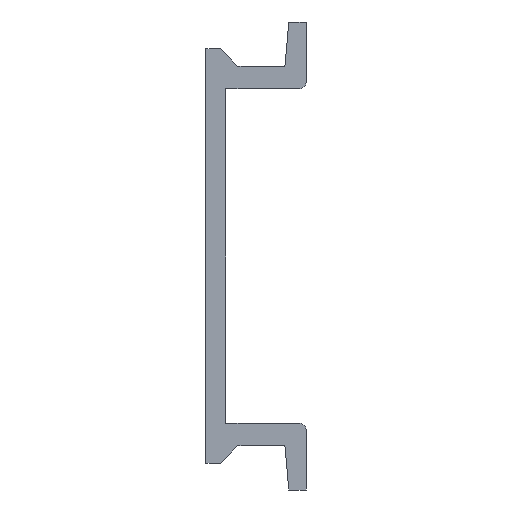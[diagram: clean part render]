
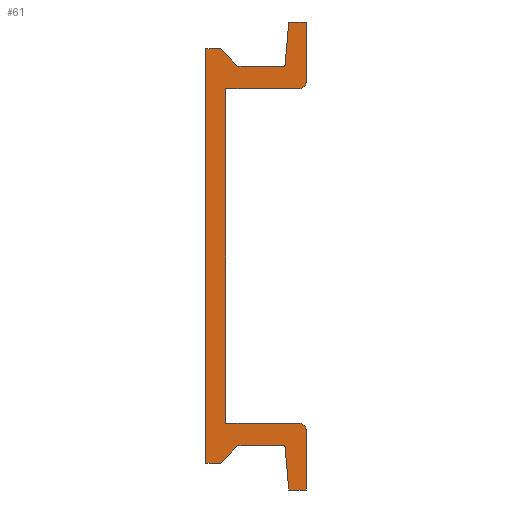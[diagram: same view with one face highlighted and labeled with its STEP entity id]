
A CAD part, left-side view. The second image highlights one B-rep face of the part: STEP entity #61.
In plain terms, the highlighted planar face has unit normal (-1, 0, 0).
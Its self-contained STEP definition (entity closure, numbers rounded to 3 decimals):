
#61=ADVANCED_FACE('',(#355),#354,.F.);
#354=PLANE('',#1040);
#355=FACE_OUTER_BOUND('',#1041,.T.);
#1037=CARTESIAN_POINT('',(0.,-8.25,21.));
#1038=DIRECTION('',(1.,0.,0.));
#1039=DIRECTION('',(0.,0.,-1.));
#1040=AXIS2_PLACEMENT_3D('',#1037,#1038,#1039);
#1041=EDGE_LOOP('',(#1522,#1523,#1524,#1525,#1526,#1527,#1528,#1529,#1530,#1531,#1532,#1533,#1534,#1535,#1536,#1537,#1538,#1539));
#1522=ORIENTED_EDGE('',*,*,#1763,.T.);
#1523=ORIENTED_EDGE('',*,*,#1767,.T.);
#1524=ORIENTED_EDGE('',*,*,#1923,.T.);
#1525=ORIENTED_EDGE('',*,*,#1920,.T.);
#1526=ORIENTED_EDGE('',*,*,#1917,.T.);
#1527=ORIENTED_EDGE('',*,*,#1914,.T.);
#1528=ORIENTED_EDGE('',*,*,#1911,.T.);
#1529=ORIENTED_EDGE('',*,*,#1908,.T.);
#1530=ORIENTED_EDGE('',*,*,#1905,.T.);
#1531=ORIENTED_EDGE('',*,*,#1902,.T.);
#1532=ORIENTED_EDGE('',*,*,#1845,.T.);
#1533=ORIENTED_EDGE('',*,*,#1842,.T.);
#1534=ORIENTED_EDGE('',*,*,#1839,.T.);
#1535=ORIENTED_EDGE('',*,*,#1836,.T.);
#1536=ORIENTED_EDGE('',*,*,#1833,.T.);
#1537=ORIENTED_EDGE('',*,*,#1830,.T.);
#1538=ORIENTED_EDGE('',*,*,#1827,.T.);
#1539=ORIENTED_EDGE('',*,*,#1824,.T.);
#1763=EDGE_CURVE('',#2026,#2027,#2028,.T.);
#1767=EDGE_CURVE('',#2027,#2054,#2055,.T.);
#1824=EDGE_CURVE('',#2451,#2026,#2452,.T.);
#1827=EDGE_CURVE('',#2471,#2451,#2472,.T.);
#1830=EDGE_CURVE('',#2491,#2471,#2492,.T.);
#1833=EDGE_CURVE('',#2511,#2491,#2512,.T.);
#1836=EDGE_CURVE('',#2531,#2511,#2532,.T.);
#1839=EDGE_CURVE('',#2551,#2531,#2552,.T.);
#1842=EDGE_CURVE('',#2571,#2551,#2572,.T.);
#1845=EDGE_CURVE('',#2591,#2571,#2592,.T.);
#1902=EDGE_CURVE('',#2988,#2591,#2989,.T.);
#1905=EDGE_CURVE('',#3008,#2988,#3009,.T.);
#1908=EDGE_CURVE('',#3028,#3008,#3029,.T.);
#1911=EDGE_CURVE('',#3048,#3028,#3049,.T.);
#1914=EDGE_CURVE('',#3068,#3048,#3069,.T.);
#1917=EDGE_CURVE('',#3088,#3068,#3089,.T.);
#1920=EDGE_CURVE('',#3108,#3088,#3109,.T.);
#1923=EDGE_CURVE('',#2054,#3108,#3128,.T.);
#2026=VERTEX_POINT('',#3487);
#2027=VERTEX_POINT('',#3488);
#2028=LINE('',#3489,#3490);
#2054=VERTEX_POINT('',#3503);
#2055=LINE('',#3504,#3505);
#2451=VERTEX_POINT('',#3756);
#2452=CIRCLE('',#3760,0.5);
#2471=VERTEX_POINT('',#3769);
#2472=LINE('',#3770,#3771);
#2491=VERTEX_POINT('',#3780);
#2492=LINE('',#3781,#3782);
#2511=VERTEX_POINT('',#3791);
#2512=LINE('',#3792,#3793);
#2531=VERTEX_POINT('',#3802);
#2532=LINE('',#3803,#3804);
#2551=VERTEX_POINT('',#3813);
#2552=LINE('',#3814,#3815);
#2571=VERTEX_POINT('',#3824);
#2572=LINE('',#3825,#3826);
#2591=VERTEX_POINT('',#3835);
#2592=LINE('',#3836,#3837);
#2988=VERTEX_POINT('',#4088);
#2989=LINE('',#4089,#4090);
#3008=VERTEX_POINT('',#4099);
#3009=LINE('',#4100,#4101);
#3028=VERTEX_POINT('',#4110);
#3029=LINE('',#4111,#4112);
#3048=VERTEX_POINT('',#4121);
#3049=LINE('',#4122,#4123);
#3068=VERTEX_POINT('',#4132);
#3069=LINE('',#4133,#4134);
#3088=VERTEX_POINT('',#4143);
#3089=LINE('',#4144,#4145);
#3108=VERTEX_POINT('',#4154);
#3109=CIRCLE('',#4158,0.5);
#3128=LINE('',#4167,#4168);
#3487=CARTESIAN_POINT('',(0.,-7.,-12.5));
#3488=CARTESIAN_POINT('',(0.,-1.5,-12.5));
#3489=CARTESIAN_POINT('',(0.,-7.,-12.5));
#3490=VECTOR('',#3491,5.5);
#3491=DIRECTION('',(0.,1.,0.));
#3503=CARTESIAN_POINT('',(0.,-1.5,12.5));
#3504=CARTESIAN_POINT('',(0.,-1.5,-12.5));
#3505=VECTOR('',#3506,25.);
#3506=DIRECTION('',(0.,0.,1.));
#3756=CARTESIAN_POINT('',(0.,-7.5,-13.));
#3757=CARTESIAN_POINT('',(0.,-7.,-13.));
#3758=DIRECTION('',(-1.,0.,0.));
#3759=DIRECTION('',(0.,0.,1.));
#3760=AXIS2_PLACEMENT_3D('',#3757,#3758,#3759);
#3769=CARTESIAN_POINT('',(0.,-7.5,-17.5));
#3770=CARTESIAN_POINT('',(0.,-7.5,-17.5));
#3771=VECTOR('',#3772,4.5);
#3772=DIRECTION('',(0.,0.,1.));
#3780=CARTESIAN_POINT('',(0.,-6.2,-17.5));
#3781=CARTESIAN_POINT('',(0.,-6.2,-17.5));
#3782=VECTOR('',#3783,1.3);
#3783=DIRECTION('',(0.,-1.,0.));
#3791=CARTESIAN_POINT('',(0.,-5.911,-14.2));
#3792=CARTESIAN_POINT('',(0.,-5.911,-14.2));
#3793=VECTOR('',#3794,3.313);
#3794=DIRECTION('',(0.,-0.087,-0.996));
#3802=CARTESIAN_POINT('',(0.,-2.4,-14.2));
#3803=CARTESIAN_POINT('',(0.,-2.4,-14.2));
#3804=VECTOR('',#3805,3.511);
#3805=DIRECTION('',(0.,-1.,0.));
#3813=CARTESIAN_POINT('',(0.,-1.1,-15.5));
#3814=CARTESIAN_POINT('',(0.,-1.1,-15.5));
#3815=VECTOR('',#3816,1.838);
#3816=DIRECTION('',(0.,-0.707,0.707));
#3824=CARTESIAN_POINT('',(0.,0.,-15.5));
#3825=CARTESIAN_POINT('',(0.,0.,-15.5));
#3826=VECTOR('',#3827,1.1);
#3827=DIRECTION('',(0.,-1.,0.));
#3835=CARTESIAN_POINT('',(0.,0.,15.5));
#3836=CARTESIAN_POINT('',(0.,0.,15.5));
#3837=VECTOR('',#3838,31.);
#3838=DIRECTION('',(0.,0.,-1.));
#4088=CARTESIAN_POINT('',(0.,-1.1,15.5));
#4089=CARTESIAN_POINT('',(0.,-1.1,15.5));
#4090=VECTOR('',#4091,1.1);
#4091=DIRECTION('',(0.,1.,0.));
#4099=CARTESIAN_POINT('',(0.,-2.4,14.2));
#4100=CARTESIAN_POINT('',(0.,-2.4,14.2));
#4101=VECTOR('',#4102,1.838);
#4102=DIRECTION('',(0.,0.707,0.707));
#4110=CARTESIAN_POINT('',(0.,-5.911,14.2));
#4111=CARTESIAN_POINT('',(0.,-5.911,14.2));
#4112=VECTOR('',#4113,3.511);
#4113=DIRECTION('',(0.,1.,0.));
#4121=CARTESIAN_POINT('',(0.,-6.2,17.5));
#4122=CARTESIAN_POINT('',(0.,-6.2,17.5));
#4123=VECTOR('',#4124,3.313);
#4124=DIRECTION('',(0.,0.087,-0.996));
#4132=CARTESIAN_POINT('',(0.,-7.5,17.5));
#4133=CARTESIAN_POINT('',(0.,-7.5,17.5));
#4134=VECTOR('',#4135,1.3);
#4135=DIRECTION('',(0.,1.,0.));
#4143=CARTESIAN_POINT('',(0.,-7.5,13.));
#4144=CARTESIAN_POINT('',(0.,-7.5,13.));
#4145=VECTOR('',#4146,4.5);
#4146=DIRECTION('',(0.,0.,1.));
#4154=CARTESIAN_POINT('',(0.,-7.,12.5));
#4155=CARTESIAN_POINT('',(0.,-7.,13.));
#4156=DIRECTION('',(-1.,0.,0.));
#4157=DIRECTION('',(0.,0.,1.));
#4158=AXIS2_PLACEMENT_3D('',#4155,#4156,#4157);
#4167=CARTESIAN_POINT('',(0.,-1.5,12.5));
#4168=VECTOR('',#4169,5.5);
#4169=DIRECTION('',(0.,-1.,0.));
